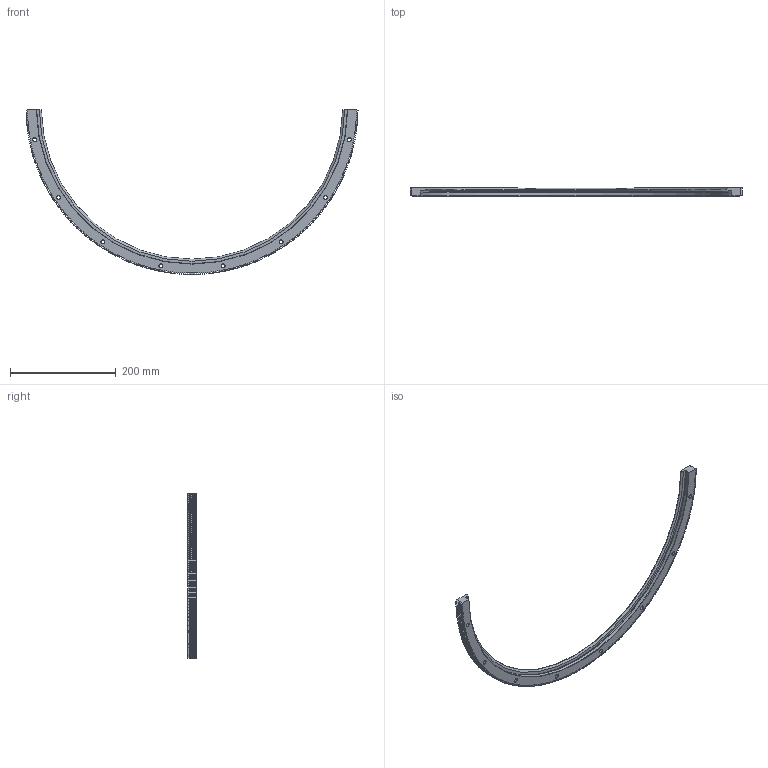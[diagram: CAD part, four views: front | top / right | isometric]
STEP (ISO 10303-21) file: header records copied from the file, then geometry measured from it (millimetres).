
FILE_DESCRIPTION( ( 'STEP AP203' ), '1' );
FILE_NAME( 'p:/temp/worker_11/temp/exporttempdir_5872_534_iCjb0/format_0/RIM 627 R180 P.stp', '2021-09-21T06:35:56', ( 'License CC BY-ND 4.0' ), ( 'CADENAS' ), ' ', 'PARTsolutions', ' ' );
FILE_SCHEMA( ( 'CONFIG_CONTROL_DESIGN' ) );
Length unit declared in the file: millimetre
Products named in the file (1): _RIM 627 R180 P
Bounding box: 627.46 x 15.5 x 311.75 mm (x, y, z)
Volume: 304828.9 mm3; surface area: 96674.4 mm2
Topology: 1 solids, 1 shells, 1538 faces, 4576 edges, 3048 vertices
Faces by surface type: plane 1010, cylinder 267, cone 260, torus 1
Full cylindrical faces by diameter (mm): 6.8 x8, 11 x8
Entity records: 51726 total; most frequent: CARTESIAN_POINT 10669, ORIENTED_EDGE 9104, DIRECTION 7920, EDGE_CURVE 4552, LINE 3250, VECTOR 3250, VERTEX_POINT 3048, AXIS2_PLACEMENT_3D 2335
